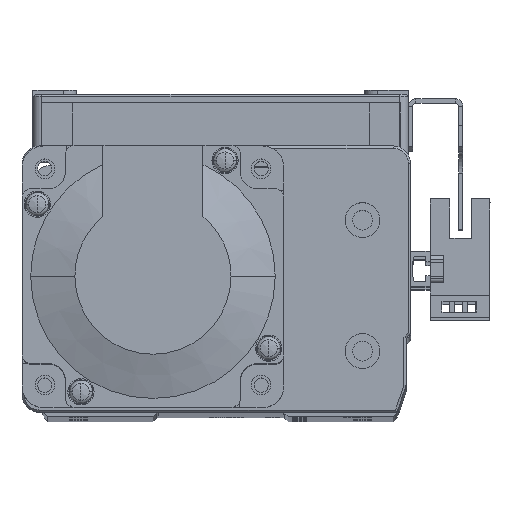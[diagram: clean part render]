
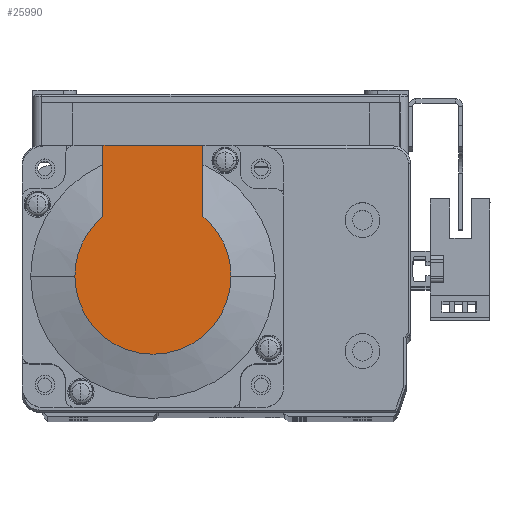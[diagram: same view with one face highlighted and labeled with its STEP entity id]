
A CAD part, top view. The second image highlights one B-rep face of the part: STEP entity #25990.
In plain terms, the highlighted planar face has unit normal (0, 0, 1) as drawn and (-1, 0, 0) by its records, which use the part's own axes.
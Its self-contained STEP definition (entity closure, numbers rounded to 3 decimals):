
#1636 = CARTESIAN_POINT ( 'NONE',  ( -99., 30., 11.45 ) ) ;
#6500 = CARTESIAN_POINT ( 'NONE',  ( -99., 13.735, 11.45 ) ) ;
#6646 = CARTESIAN_POINT ( 'NONE',  ( -99., 13.735, -11.45 ) ) ;
#6666 = CARTESIAN_POINT ( 'NONE',  ( -99., 0., 17.881 ) ) ;
#6692 = CARTESIAN_POINT ( 'NONE',  ( -99., 0., -17.881 ) ) ;
#11592 = EDGE_LOOP ( 'NONE', ( #28343, #27779, #28356, #28322, #28347, #28331 ) ) ;
#17660 = EDGE_CURVE ( 'NONE', #39326, #39257, #28500, .T. ) ;
#17826 = EDGE_CURVE ( 'NONE', #39287, #39326, #28640, .T. ) ;
#18223 = EDGE_CURVE ( 'NONE', #39300, #39287, #29017, .T. ) ;
#18399 = EDGE_CURVE ( 'NONE', #26041, #39300, #29108, .T. ) ;
#18416 = EDGE_CURVE ( 'NONE', #26041, #22810, #29170, .T. ) ;
#18468 = EDGE_CURVE ( 'NONE', #22810, #39257, #29223, .T. ) ;
#18608 = AXIS2_PLACEMENT_3D ( 'NONE', #35462, #35463, #35440 ) ;
#21699 = DIRECTION ( 'NONE',  ( 0., 0., -1. ) ) ;
#21721 = CARTESIAN_POINT ( 'NONE',  ( -99., 0., 0. ) ) ;
#21724 = DIRECTION ( 'NONE',  ( -1., 0., 0. ) ) ;
#22209 = DIRECTION ( 'NONE',  ( 0., 0., -1. ) ) ;
#22215 = CARTESIAN_POINT ( 'NONE',  ( -99., 0., 0. ) ) ;
#22226 = DIRECTION ( 'NONE',  ( -1., 0., 0. ) ) ;
#22409 = DIRECTION ( 'NONE',  ( 0., 0., -1. ) ) ;
#22427 = CARTESIAN_POINT ( 'NONE',  ( -99., 0., 0. ) ) ;
#22429 = DIRECTION ( 'NONE',  ( -1., 0., 0. ) ) ;
#22810 = VERTEX_POINT ( 'NONE', #1636 ) ;
#25470 = AXIS2_PLACEMENT_3D ( 'NONE', #22427, #22429, #22409 ) ;
#25548 = AXIS2_PLACEMENT_3D ( 'NONE', #21721, #21724, #21699 ) ;
#25606 = AXIS2_PLACEMENT_3D ( 'NONE', #22215, #22226, #22209 ) ;
#25990 = ADVANCED_FACE ( 'NONE', ( #47473 ), #35432, .T. ) ;
#26041 = VERTEX_POINT ( 'NONE', #35568 ) ;
#27779 = ORIENTED_EDGE ( 'NONE', *, *, #18223, .T. ) ;
#28322 = ORIENTED_EDGE ( 'NONE', *, *, #17660, .T. ) ;
#28331 = ORIENTED_EDGE ( 'NONE', *, *, #18416, .F. ) ;
#28343 = ORIENTED_EDGE ( 'NONE', *, *, #18399, .T. ) ;
#28347 = ORIENTED_EDGE ( 'NONE', *, *, #18468, .F. ) ;
#28356 = ORIENTED_EDGE ( 'NONE', *, *, #17826, .T. ) ;
#28500 = CIRCLE ( 'NONE', #25470, 17.881 ) ;
#28640 = CIRCLE ( 'NONE', #25548, 17.881 ) ;
#29017 = CIRCLE ( 'NONE', #25606, 17.881 ) ;
#29108 = LINE ( 'NONE', #37117, #29123 ) ;
#29123 = VECTOR ( 'NONE', #37139, 1000. ) ;
#29170 = LINE ( 'NONE', #37161, #29204 ) ;
#29204 = VECTOR ( 'NONE', #37150, 1000. ) ;
#29223 = LINE ( 'NONE', #37247, #29271 ) ;
#29271 = VECTOR ( 'NONE', #37232, 1000. ) ;
#35432 = PLANE ( 'NONE',  #18608 ) ;
#35440 = DIRECTION ( 'NONE',  ( 0., 0., 1. ) ) ;
#35462 = CARTESIAN_POINT ( 'NONE',  ( -99., -8.941, 0. ) ) ;
#35463 = DIRECTION ( 'NONE',  ( -1., 0., 0. ) ) ;
#35568 = CARTESIAN_POINT ( 'NONE',  ( -99., 30., -11.45 ) ) ;
#37117 = CARTESIAN_POINT ( 'NONE',  ( -99., -8.941, -11.45 ) ) ;
#37139 = DIRECTION ( 'NONE',  ( 0., -1., 0. ) ) ;
#37150 = DIRECTION ( 'NONE',  ( 0., 0., 1. ) ) ;
#37161 = CARTESIAN_POINT ( 'NONE',  ( -99., 30., 25. ) ) ;
#37232 = DIRECTION ( 'NONE',  ( 0., -1., 0. ) ) ;
#37247 = CARTESIAN_POINT ( 'NONE',  ( -99., 0., 11.45 ) ) ;
#39257 = VERTEX_POINT ( 'NONE', #6500 ) ;
#39287 = VERTEX_POINT ( 'NONE', #6692 ) ;
#39300 = VERTEX_POINT ( 'NONE', #6646 ) ;
#39326 = VERTEX_POINT ( 'NONE', #6666 ) ;
#47473 = FACE_OUTER_BOUND ( 'NONE', #11592, .T. ) ;
